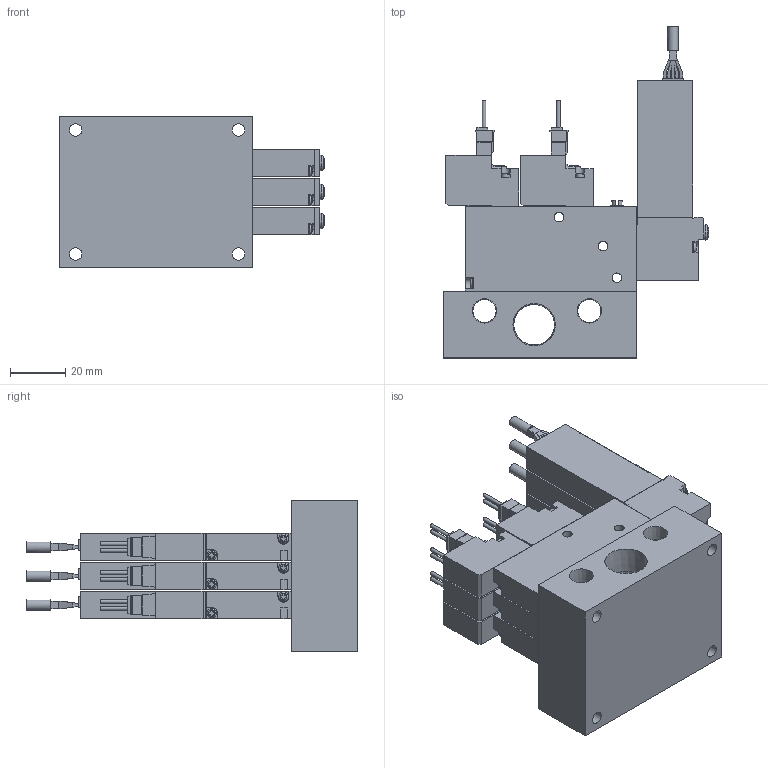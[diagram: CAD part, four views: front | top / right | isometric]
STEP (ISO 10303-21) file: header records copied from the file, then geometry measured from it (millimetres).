
FILE_DESCRIPTION(('STEP AP203'),'1');
FILE_NAME('BMPV42MV9.V9P5A(B)303.stp','2025-04-30T01:28:12',(' '),(' '),'Spatial InterOp 3D',' ',' ');
FILE_SCHEMA(('CONFIG_CONTROL_DESIGN'));
Length unit declared in the file: millimetre
Products named in the file (5): BMPV42MV9.V9P5A(B)303; VACUUM VALVE FUNCTION MPV42-A; VACUUM SENSOR MPV42-V9; UNIT-MPV42; MPV42-M30R-1
Assembly tree (13 placements, depth 2):
  BMPV42MV9.V9P5A(B)303
    VACUUM VALVE FUNCTION MPV42-A  x6
    VACUUM SENSOR MPV42-V9  x3
    UNIT-MPV42  x3
    MPV42-M30R-1
Bounding box: 96.35 x 120.3 x 55 mm (x, y, z)
Volume: 204978.7 mm3; surface area: 68469.7 mm2
Topology: 13 solids, 13 shells, 1159 faces, 3139 edges, 2078 vertices
Faces by surface type: plane 906, cylinder 205, cone 18, sphere 15, torus 15
Full cylindrical faces by diameter (mm): 1.4 x12, 1.8 x3, 2.2 x6, 3 x12, 3.5 x33, 3.8 x3, 4.134 x6, 4.5 x4, 5 x3, 5.5 x3, 8.441 x2, 14.744 x1
Entity records: 9535 total; most frequent: CARTESIAN_POINT 1860, DIRECTION 1507, ORIENTED_EDGE 1474, EDGE_CURVE 737, LINE 551, VECTOR 551, VERTEX_POINT 513, AXIS2_PLACEMENT_3D 478
